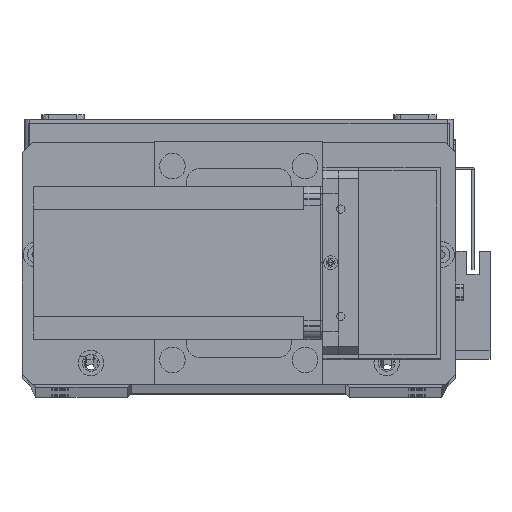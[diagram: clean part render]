
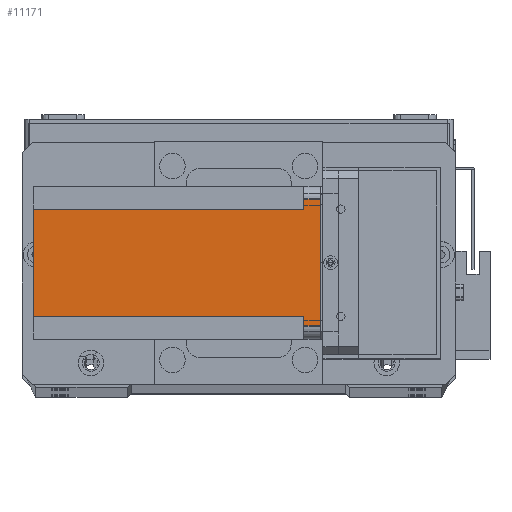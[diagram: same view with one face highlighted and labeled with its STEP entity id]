
A CAD part, top view. The second image highlights one B-rep face of the part: STEP entity #11171.
In plain terms, the highlighted planar face has unit normal (0, 0, 1) as drawn and (-1, 0, 0) by its records, which use the part's own axes.
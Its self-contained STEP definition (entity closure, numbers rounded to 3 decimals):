
#646 = VERTEX_POINT ( 'NONE', #13878 ) ;
#744 = LINE ( 'NONE', #32616, #26571 ) ;
#940 = VERTEX_POINT ( 'NONE', #7836 ) ;
#1264 = CARTESIAN_POINT ( 'NONE',  ( 0., 5., -112.5 ) ) ;
#1360 = CARTESIAN_POINT ( 'NONE',  ( 0., 51., -112.5 ) ) ;
#1375 = VERTEX_POINT ( 'NONE', #3210 ) ;
#1427 = VERTEX_POINT ( 'NONE', #31286 ) ;
#1506 = VERTEX_POINT ( 'NONE', #21779 ) ;
#1566 = FACE_OUTER_BOUND ( 'NONE', #26756, .T. ) ;
#2399 = VECTOR ( 'NONE', #17679, 1000. ) ;
#3210 = CARTESIAN_POINT ( 'NONE',  ( 0., 5., 0. ) ) ;
#4153 = CARTESIAN_POINT ( 'NONE',  ( 0., 0., -6.5 ) ) ;
#4454 = AXIS2_PLACEMENT_3D ( 'NONE', #20042, #18397, #18192 ) ;
#4864 = CARTESIAN_POINT ( 'NONE',  ( 0., 51., -6.5 ) ) ;
#5723 = VECTOR ( 'NONE', #9405, 1000. ) ;
#7164 = ORIENTED_EDGE ( 'NONE', *, *, #30798, .T. ) ;
#7636 = VERTEX_POINT ( 'NONE', #4864 ) ;
#7836 = CARTESIAN_POINT ( 'NONE',  ( 0., 9., -6.5 ) ) ;
#8399 = ORIENTED_EDGE ( 'NONE', *, *, #30466, .F. ) ;
#8526 = DIRECTION ( 'NONE',  ( 0., -1., 0. ) ) ;
#9405 = DIRECTION ( 'NONE',  ( 0., 0., 1. ) ) ;
#10098 = CARTESIAN_POINT ( 'NONE',  ( 0., 9., -112.5 ) ) ;
#10105 = CARTESIAN_POINT ( 'NONE',  ( 0., 5., -6.5 ) ) ;
#11155 = LINE ( 'NONE', #10098, #2399 ) ;
#11171 = ADVANCED_FACE ( 'NONE', ( #1566 ), #19547, .T. ) ;
#11213 = ORIENTED_EDGE ( 'NONE', *, *, #30305, .F. ) ;
#12703 = LINE ( 'NONE', #1264, #5723 ) ;
#13878 = CARTESIAN_POINT ( 'NONE',  ( 0., 9., -112.5 ) ) ;
#15052 = VECTOR ( 'NONE', #8526, 1000. ) ;
#15861 = VECTOR ( 'NONE', #30933, 1000. ) ;
#16368 = ORIENTED_EDGE ( 'NONE', *, *, #30591, .F. ) ;
#16541 = ORIENTED_EDGE ( 'NONE', *, *, #30802, .T. ) ;
#16671 = LINE ( 'NONE', #23535, #15861 ) ;
#16883 = CARTESIAN_POINT ( 'NONE',  ( 0., 55., -112.5 ) ) ;
#17679 = DIRECTION ( 'NONE',  ( 0., 0., -1. ) ) ;
#17811 = VECTOR ( 'NONE', #22192, 1000. ) ;
#18192 = DIRECTION ( 'NONE',  ( 0., -1., 0. ) ) ;
#18223 = LINE ( 'NONE', #23232, #20628 ) ;
#18397 = DIRECTION ( 'NONE',  ( -1., 0., 0. ) ) ;
#18820 = ORIENTED_EDGE ( 'NONE', *, *, #30860, .F. ) ;
#19391 = LINE ( 'NONE', #16883, #25370 ) ;
#19547 = PLANE ( 'NONE',  #4454 ) ;
#20042 = CARTESIAN_POINT ( 'NONE',  ( 0., 0., -112.5 ) ) ;
#20628 = VECTOR ( 'NONE', #28236, 1000. ) ;
#21173 = CARTESIAN_POINT ( 'NONE',  ( 0., 0., 0. ) ) ;
#21779 = CARTESIAN_POINT ( 'NONE',  ( 0., 55., -6.5 ) ) ;
#21796 = LINE ( 'NONE', #21173, #15052 ) ;
#21997 = DIRECTION ( 'NONE',  ( 0., 0., -1. ) ) ;
#22192 = DIRECTION ( 'NONE',  ( 0., 1., 0. ) ) ;
#23232 = CARTESIAN_POINT ( 'NONE',  ( 0., 51., -112.5 ) ) ;
#23535 = CARTESIAN_POINT ( 'NONE',  ( 0., 60., -6.5 ) ) ;
#25370 = VECTOR ( 'NONE', #21997, 1000. ) ;
#25416 = DIRECTION ( 'NONE',  ( 0., -1., 0. ) ) ;
#25493 = ORIENTED_EDGE ( 'NONE', *, *, #30355, .T. ) ;
#25649 = VERTEX_POINT ( 'NONE', #1360 ) ;
#26571 = VECTOR ( 'NONE', #25416, 1000. ) ;
#26756 = EDGE_LOOP ( 'NONE', ( #18820, #16541, #31586, #7164, #16368, #8399, #25493, #11213 ) ) ;
#28236 = DIRECTION ( 'NONE',  ( 0., 0., 1. ) ) ;
#30305 = EDGE_CURVE ( 'NONE', #940, #646, #11155, .T. ) ;
#30318 = LINE ( 'NONE', #4153, #17811 ) ;
#30355 = EDGE_CURVE ( 'NONE', #25649, #646, #744, .T. ) ;
#30466 = EDGE_CURVE ( 'NONE', #25649, #7636, #18223, .T. ) ;
#30591 = EDGE_CURVE ( 'NONE', #7636, #1506, #16671, .T. ) ;
#30798 = EDGE_CURVE ( 'NONE', #1427, #1506, #19391, .T. ) ;
#30802 = EDGE_CURVE ( 'NONE', #32086, #1375, #12703, .T. ) ;
#30860 = EDGE_CURVE ( 'NONE', #32086, #940, #30318, .T. ) ;
#30933 = DIRECTION ( 'NONE',  ( 0., 1., 0. ) ) ;
#31286 = CARTESIAN_POINT ( 'NONE',  ( 0., 55., 0. ) ) ;
#31350 = EDGE_CURVE ( 'NONE', #1427, #1375, #21796, .T. ) ;
#31586 = ORIENTED_EDGE ( 'NONE', *, *, #31350, .F. ) ;
#32086 = VERTEX_POINT ( 'NONE', #10105 ) ;
#32616 = CARTESIAN_POINT ( 'NONE',  ( 0., 0., -112.5 ) ) ;
